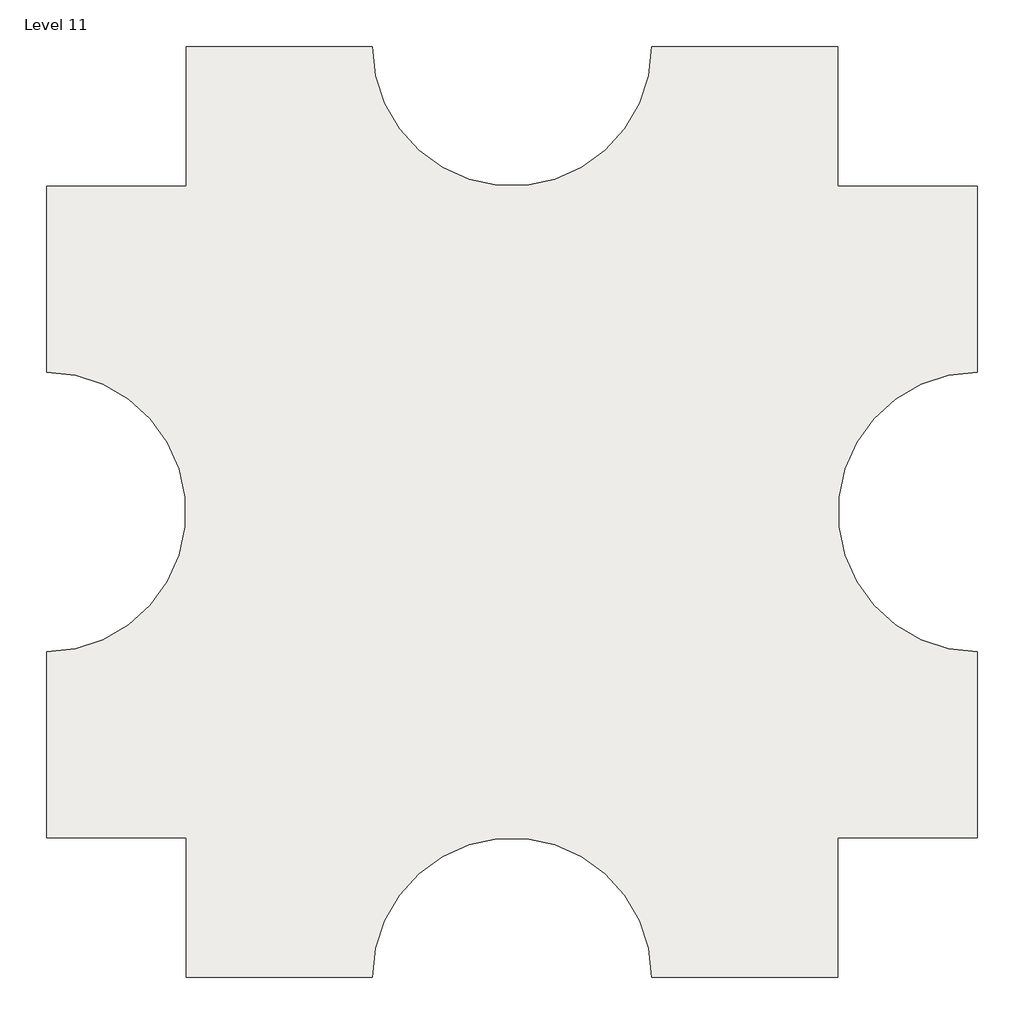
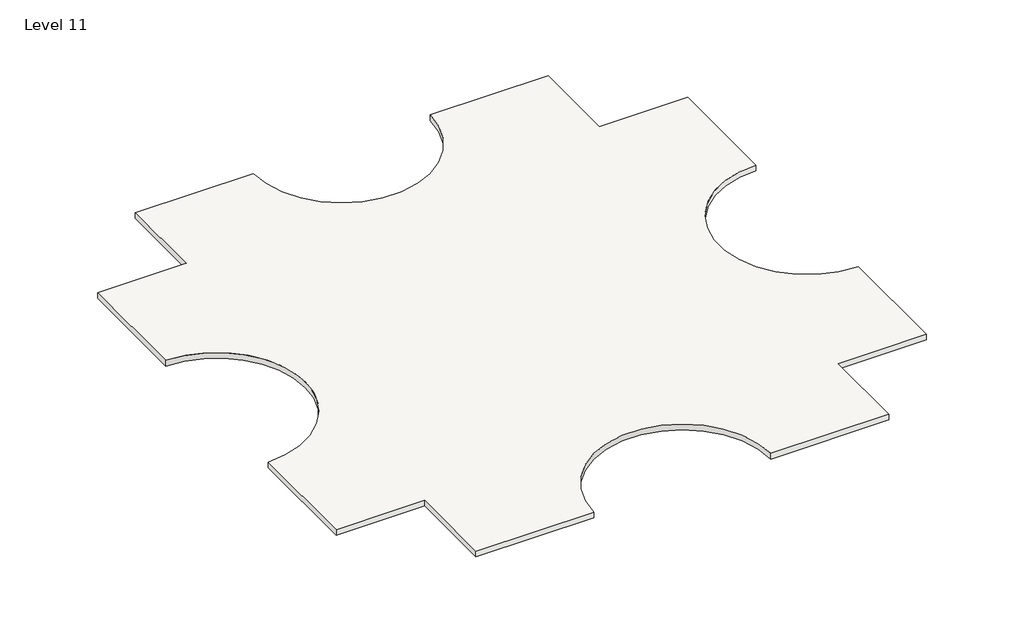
# One storey: 1 slab.
"""IFC4 building model written with IfcOpenShell, lengths in millimetres."""

import ifcopenshell
import ifcopenshell.guid

model = None  # the IFC model being written
_history = None  # IfcOwnerHistory: only IFC2X3 demands one
_inside = {}  # id of a spatial element -> (the spatial element, [elements in it])
_under = {}  # id of a project, library or spatial element -> (it, [spatial elements below it])
_declared = {}  # id of a project -> (the project, [libraries it declares])
_typed = {}  # id of a type object -> (the type object, [elements of that type])
_made_of = {}  # id of a material, layer set ... -> (it, [elements and type objects made of it])


def new_model(schema):
    """Start an empty IFC model of exactly this schema.

    Asked for "IFC4X3", IfcOpenShell would pick the latest addendum, in which some entities
    have other attributes; the version numbers below select the first issue.
    IFC2X3 requires an IfcOwnerHistory on every rooted entity: one is made here for all.
    """
    global model, _history
    if schema == "IFC4X3":
        model = ifcopenshell.file(schema_version=(4, 3, 0, 0))
    else:
        model = ifcopenshell.file(schema=schema)
    _inside.clear()
    _under.clear()
    _declared.clear()
    _typed.clear()
    _made_of.clear()
    _history = None
    if model.schema == "IFC2X3":
        org = make("IfcOrganization", Name="unknown")
        user = make(
            "IfcPersonAndOrganization",
            ThePerson=make("IfcPerson", FamilyName="unknown"),
            TheOrganization=org,
        )
        app = make(
            "IfcApplication",
            ApplicationDeveloper=org,
            Version="unknown",
            ApplicationFullName="unknown",
            ApplicationIdentifier="unknown",
        )
        _history = make(
            "IfcOwnerHistory",
            OwningUser=user,
            OwningApplication=app,
            ChangeAction="ADDED",
            CreationDate=0,
        )
    return model


def make(cls, **values):
    """One entity of the class cls with the attributes given. An attribute that is None is left unset."""
    return model.create_entity(
        cls, **{name: value for name, value in values.items() if value is not None}
    )


def rooted(cls, **values):
    """An entity with a GlobalId (a new one), such as an element, a storey or a relation."""
    return make(cls, GlobalId=ifcopenshell.guid.new(), OwnerHistory=_history, **values)


def si_unit(unit_type, name, prefix=None):
    """IfcSIUnit, for example si_unit("LENGTHUNIT", "METRE", prefix="MILLI")."""
    return make("IfcSIUnit", UnitType=unit_type, Prefix=prefix, Name=name)


def assignment(units):
    """IfcUnitAssignment: the units of a project."""
    return None if units is None else make("IfcUnitAssignment", Units=units)


def point(xyz):
    """IfcCartesianPoint."""
    return None if xyz is None else make("IfcCartesianPoint", Coordinates=xyz)


def direction(xyz):
    """IfcDirection."""
    return None if xyz is None else make("IfcDirection", DirectionRatios=xyz)


def frame(location, z_axis=None, x_axis=None):
    """IfcAxis2Placement3D, a coordinate frame: its origin and axes. An axis left out is left unset."""
    return make(
        "IfcAxis2Placement3D",
        Location=point(location),
        Axis=direction(z_axis),
        RefDirection=direction(x_axis),
    )


def frame_2d(location, x_axis=None):
    """IfcAxis2Placement2D, a coordinate frame in the plane: its origin and x axis."""
    return make(
        "IfcAxis2Placement2D", Location=point(location), RefDirection=direction(x_axis)
    )


def origin():
    """The frame at (0, 0, 0) with its axes left unset."""
    return frame((0.0, 0.0, 0.0))


def place(relative_to, where):
    """IfcLocalPlacement: puts the frame where relative to a parent placement (None: the world)."""
    return make(
        "IfcLocalPlacement", PlacementRelTo=relative_to, RelativePlacement=where
    )


def context(
    kind, dimensions, precision=None, world=None, true_north=None, identifier=None
):
    """IfcGeometricRepresentationContext, for example the 3D "Model" context."""
    return make(
        "IfcGeometricRepresentationContext",
        ContextIdentifier=identifier,
        ContextType=kind,
        CoordinateSpaceDimension=dimensions,
        Precision=precision,
        WorldCoordinateSystem=world,
        TrueNorth=true_north,
    )


def project(units=None, contexts=None):
    """IfcProject with its units and contexts."""
    return rooted(
        "IfcProject",
        Name="project",
        RepresentationContexts=contexts,
        UnitsInContext=assignment(units),
    )


def spatial(cls, under=None, at=None, **own):
    """A site, building, storey or space (cls), placed at a placement, below another one or the project."""
    s = rooted(cls, ObjectPlacement=at, **own)
    if under is not None:
        _under.setdefault(under.id(), (under, []))[1].append(s)
    return s


def polyline(points):
    """IfcPolyline through the points."""
    return make("IfcPolyline", Points=[point(p) for p in points])


def circle_curve(where, radius):
    """IfcCircle in the frame where."""
    return make("IfcCircle", Position=where, Radius=radius)


def trimmed(basis, trim1, trim2, sense, master):
    """IfcTrimmedCurve: the piece of a basis curve between two trims."""
    return make(
        "IfcTrimmedCurve",
        BasisCurve=basis,
        Trim1=trim1,
        Trim2=trim2,
        SenseAgreement=sense,
        MasterRepresentation=master,
    )


def segment(curve, same_sense, transition):
    """IfcCompositeCurveSegment."""
    return make(
        "IfcCompositeCurveSegment",
        Transition=transition,
        SameSense=same_sense,
        ParentCurve=curve,
    )


def composite_curve(segments, self_intersect=None):
    """IfcCompositeCurve: segments joined end to end."""
    return make("IfcCompositeCurve", Segments=segments, SelfIntersect=self_intersect)


def outline(outer, holes=None, kind="AREA"):
    """IfcArbitraryClosedProfileDef: a profile drawn as a closed curve; with holes, ...WithVoids."""
    if holes is None:
        return make("IfcArbitraryClosedProfileDef", ProfileType=kind, OuterCurve=outer)
    return make(
        "IfcArbitraryProfileDefWithVoids",
        ProfileType=kind,
        OuterCurve=outer,
        InnerCurves=holes,
    )


def extrude(swept, where, along, depth):
    """IfcExtrudedAreaSolid: the profile swept, set in the frame where, extruded along a direction by depth."""
    return make(
        "IfcExtrudedAreaSolid",
        SweptArea=swept,
        Position=where,
        ExtrudedDirection=direction(along),
        Depth=depth,
    )


def shape(context_of_items, identifier, shape_type, items):
    """IfcShapeRepresentation: the items that make up one representation, for example the "Body"."""
    return make(
        "IfcShapeRepresentation",
        ContextOfItems=context_of_items,
        RepresentationIdentifier=identifier,
        RepresentationType=shape_type,
        Items=items,
    )


def made_of(thing, what):
    """Note that an element or type object is made of a material, layer set ...; save() writes the relation."""
    if what is not None:
        _made_of.setdefault(what.id(), (what, []))[1].append(thing)
    return thing


def element(
    cls,
    number,
    at=None,
    inside=None,
    cuts=None,
    type_object=None,
    material=None,
    context=None,
    identifier="Body",
    shape_type=None,
    held_by="IfcProductDefinitionShape",
    body=None,
    shapes=None,
    **own,
):
    """One element of the class cls, such as IfcWall. Its Tag is "e" and its number.

    at: its placement. inside: the storey or other place that contains it. cuts: it is an
    opening in that element (IfcRelVoidsElement). A single representation is given by context,
    identifier, shape_type and body (its items); several are given by shapes. held_by: the class
    of the entity that holds the representations. save() writes the other relations.
    """
    e = rooted(cls, Tag="e%d" % number, ObjectPlacement=at, **own)
    if body is not None:
        shapes = [shape(context, identifier, shape_type, body)]
    if shapes is not None:
        e.Representation = make(held_by, Representations=shapes)
    if inside is not None:
        _inside.setdefault(inside.id(), (inside, []))[1].append(e)
    if cuts is not None:
        rooted(
            "IfcRelVoidsElement", RelatingBuildingElement=cuts, RelatedOpeningElement=e
        )
    if type_object is not None:
        _typed.setdefault(type_object.id(), (type_object, []))[1].append(e)
    return made_of(e, material)


def aggregate(whole, parts):
    """IfcRelAggregates: a whole, such as a stair, and the parts it consists of."""
    return rooted("IfcRelAggregates", RelatingObject=whole, RelatedObjects=parts)


def save(model, path):
    """Write the relations noted so far, then the file.

    IfcRelAggregates (storeys below a building ...), IfcRelContainedInSpatialStructure (elements
    in a storey), IfcRelDefinesByType, IfcRelAssociatesMaterial and IfcRelDeclares: one each for
    every whole, place, type object, material and project.
    """
    for whole, parts in _under.values():
        aggregate(whole, parts)
    for where, things in _inside.values():
        rooted(
            "IfcRelContainedInSpatialStructure",
            RelatedElements=things,
            RelatingStructure=where,
        )
    for kind, things in _typed.values():
        rooted("IfcRelDefinesByType", RelatedObjects=things, RelatingType=kind)
    for what, things in _made_of.values():
        rooted("IfcRelAssociatesMaterial", RelatedObjects=things, RelatingMaterial=what)
    for by, libraries in _declared.values():
        rooted("IfcRelDeclares", RelatingContext=by, RelatedDefinitions=libraries)
    model.write(path)


model = new_model("IFC4")

# Units and contexts
model_context = context("Model", 3, world=origin())
ifc_project = project(units=[si_unit("LENGTHUNIT", "METRE", prefix="MILLI")], contexts=[model_context])

# Site, building, storey
site = spatial("IfcSite", under=ifc_project)
building = spatial("IfcBuilding", under=site)
storey = spatial("IfcBuildingStorey", under=building, Name="Level 11", Elevation=30480.0)

# Slab
placement = place(None, origin())
element("IfcSlab", 1, ObjectType="Generic - 12\"", at=placement, inside=storey, context=model_context, shape_type="SweptSolid", body=[
    extrude(outline(composite_curve([segment(polyline([(-7150.3629456, 4479.6634547), (-7150.3629456, 9051.6634547), (-1054.3629456, 9051.6634547)]), True, "CONTINUOUS"), segment(trimmed(circle_curve(frame_2d((3517.6370544, 9051.6634547)), 4572.0), [point((-1054.3629456, 9051.6634547))], [point((8089.6370544, 9051.6634547))], True, "CARTESIAN"), True, "CONTINUOUS"), segment(polyline([(8089.6370544, 9051.6634547), (14185.6370544, 9051.6634547), (14185.6370544, 4479.6634547), (18757.6370544, 4479.6634547), (18757.6370544, -1616.3365453)]), True, "CONTINUOUS"), segment(trimmed(circle_curve(frame_2d((18757.6370544, -6188.3365453)), 4572.0), [point((18757.6370544, -1616.3365453))], [point((18757.6370544, -10760.3365453))], True, "CARTESIAN"), True, "CONTINUOUS"), segment(polyline([(18757.6370544, -10760.3365453), (18757.6370544, -16856.3365453), (14185.6370544, -16856.3365453), (14185.6370544, -21428.3365453), (8089.6370544, -21428.3365453)]), True, "CONTINUOUS"), segment(trimmed(circle_curve(frame_2d((3517.6370544, -21428.3365453)), 4572.0), [point((8089.6370544, -21428.3365453))], [point((-1054.3629456, -21428.3365453))], True, "CARTESIAN"), True, "CONTINUOUS"), segment(polyline([(-1054.3629456, -21428.3365453), (-7150.3629456, -21428.3365453), (-7150.3629456, -16856.3365453), (-11722.3629456, -16856.3365453), (-11722.3629456, -10760.3365453)]), True, "CONTINUOUS"), segment(trimmed(circle_curve(frame_2d((-11722.3629456, -6188.3365453)), 4572.0), [point((-11722.3629456, -10760.3365453))], [point((-11722.3629456, -1616.3365453))], True, "CARTESIAN"), True, "CONTINUOUS"), segment(polyline([(-11722.3629456, -1616.3365453), (-11722.3629456, 4479.6634547), (-7150.3629456, 4479.6634547)]), True, "CONTINUOUS")], self_intersect=False)), frame((0.0, 0.0, 30175.2), z_axis=(0.0, 0.0, 1.0), x_axis=(1.0, 0.0, 0.0)), (0.0, 0.0, 1.0), 304.8),
])

save(model, "model.ifc")
